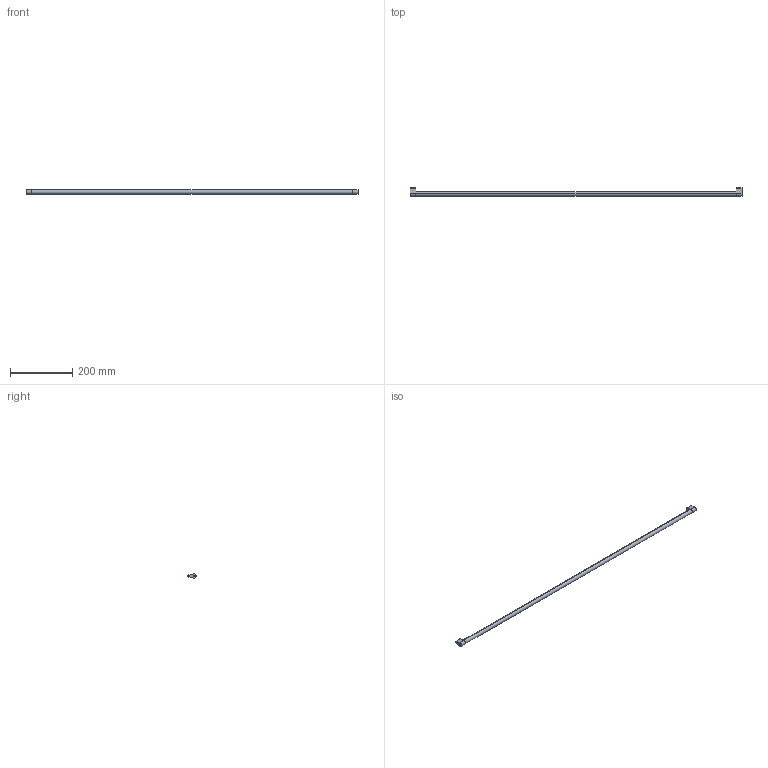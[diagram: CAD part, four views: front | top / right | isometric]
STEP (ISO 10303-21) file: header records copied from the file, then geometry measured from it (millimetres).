
FILE_DESCRIPTION (( 'STEP AP214' ), '1' );
FILE_NAME ('_Synchronisationseinheit Nova Pro KAB1150_S16.step', '2010-07-08T13:58:37', ( 'grass' ), ( '' ), 'SwSTEP 2.0', 'SolidWorks 2010', '' );
FILE_SCHEMA (( 'AUTOMOTIVE_DESIGN' ));
Length unit declared in the file: millimetre
Products named in the file (1): _Synchronisationseinheit Nova Pro KAB1150_S16
Bounding box: 1065 x 26.5 x 14 mm (x, y, z)
Volume: 167630.8 mm3; surface area: 49688.1 mm2
Topology: 3 solids, 3 shells, 36 faces, 78 edges, 52 vertices
Faces by surface type: cylinder 18, plane 18
Entity records: 1050 total; most frequent: DIRECTION 188, CARTESIAN_POINT 167, ORIENTED_EDGE 156, EDGE_CURVE 78, AXIS2_PLACEMENT_3D 73, VERTEX_POINT 52, LINE 42, VECTOR 42
